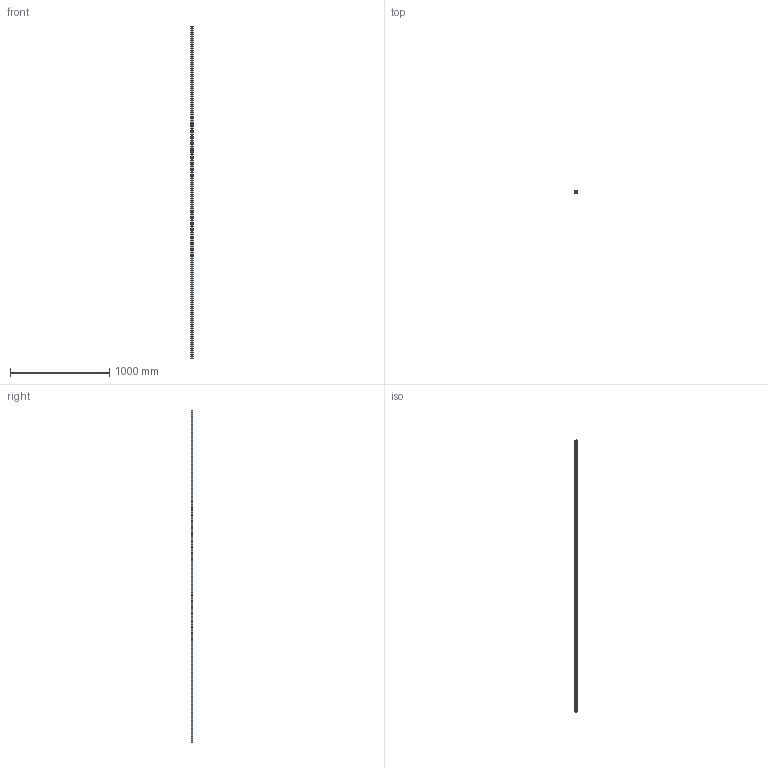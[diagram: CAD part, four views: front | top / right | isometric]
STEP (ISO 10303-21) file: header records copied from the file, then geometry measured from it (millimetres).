
FILE_DESCRIPTION (( 'STEP AP203' ), '1' );
FILE_NAME ('L1016.BL25-3340.step', '2019-06-12T12:14:50', ( '' ), ( '' ), 'SwSTEP 2.0', 'SolidWorks 2017', '' );
FILE_SCHEMA (( 'CONFIG_CONTROL_DESIGN' ));
Length unit declared in the file: millimetre
Products named in the file (1): L1016.BL25-3340
Bounding box: 23 x 19.2 x 3340 mm (x, y, z)
Volume: 1230886.4 mm3; surface area: 315900 mm2
Topology: 1 solids, 1 shells, 306 faces, 744 edges, 496 vertices
Faces by surface type: cylinder 228, plane 78
Entity records: 9525 total; most frequent: DIRECTION 1814, CARTESIAN_POINT 1547, ORIENTED_EDGE 1488, AXIS2_PLACEMENT_3D 763, EDGE_CURVE 744, VERTEX_POINT 496, EDGE_LOOP 474, CIRCLE 456
